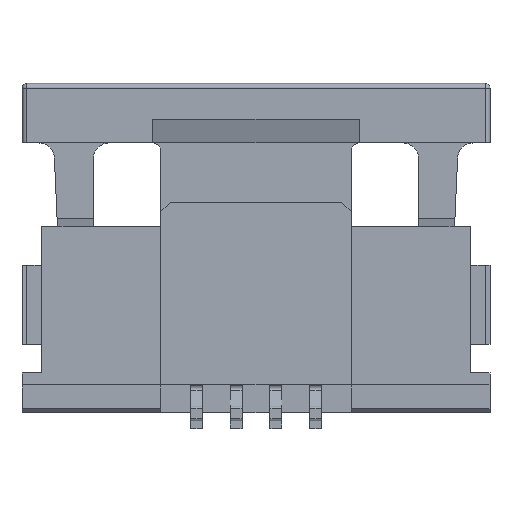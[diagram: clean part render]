
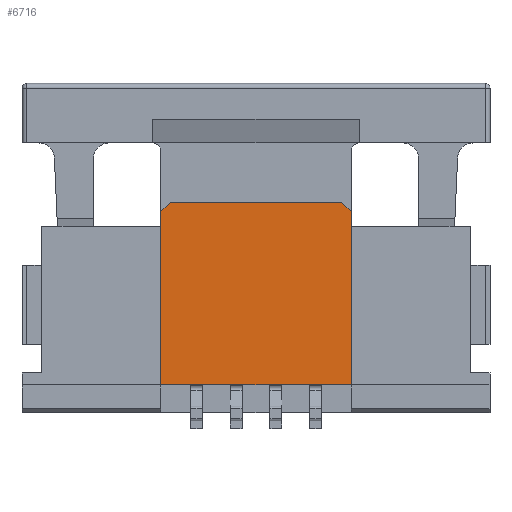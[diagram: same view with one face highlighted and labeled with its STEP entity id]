
A CAD part, front view. The second image highlights one B-rep face of the part: STEP entity #6716.
In plain terms, the highlighted planar face has unit normal (0, -1, 0).
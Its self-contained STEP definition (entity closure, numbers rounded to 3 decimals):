
#89=DIRECTION('',(1.,0.,0.));
#90=VECTOR('',#89,2.16);
#91=CARTESIAN_POINT('',(-1.08,-0.43,1.325));
#92=LINE('',#91,#90);
#229=DIRECTION('',(0.,0.,1.));
#230=VECTOR('',#229,0.18);
#231=CARTESIAN_POINT('',(1.2,-0.43,1.025));
#232=LINE('',#231,#230);
#249=DIRECTION('',(-0.707,0.,0.707));
#250=VECTOR('',#249,0.17);
#251=CARTESIAN_POINT('',(1.2,-0.43,1.205));
#252=LINE('',#251,#250);
#1149=DIRECTION('',(0.,0.,1.));
#1150=VECTOR('',#1149,2.);
#1151=CARTESIAN_POINT('',(1.2,-0.43,-0.975));
#1152=LINE('',#1151,#1150);
#1153=DIRECTION('',(0.,0.,-1.));
#1154=VECTOR('',#1153,2.);
#1155=CARTESIAN_POINT('',(-1.2,-0.43,1.025));
#1156=LINE('',#1155,#1154);
#1173=DIRECTION('',(1.,0.,0.));
#1174=VECTOR('',#1173,2.4);
#1175=CARTESIAN_POINT('',(-1.2,-0.43,-0.975));
#1176=LINE('',#1175,#1174);
#1257=DIRECTION('',(-0.707,0.,-0.707));
#1258=VECTOR('',#1257,0.17);
#1259=CARTESIAN_POINT('',(-1.08,-0.43,1.325));
#1260=LINE('',#1259,#1258);
#1281=DIRECTION('',(0.,0.,-1.));
#1282=VECTOR('',#1281,0.18);
#1283=CARTESIAN_POINT('',(-1.2,-0.43,1.205));
#1284=LINE('',#1283,#1282);
#4093=CARTESIAN_POINT('',(-1.08,-0.43,1.325));
#4094=CARTESIAN_POINT('',(1.08,-0.43,1.325));
#4095=VERTEX_POINT('',#4093);
#4096=VERTEX_POINT('',#4094);
#4105=CARTESIAN_POINT('',(-1.2,-0.43,1.205));
#4106=VERTEX_POINT('',#4105);
#4107=CARTESIAN_POINT('',(-1.2,-0.43,1.025));
#4108=VERTEX_POINT('',#4107);
#4109=CARTESIAN_POINT('',(1.2,-0.43,1.025));
#4110=VERTEX_POINT('',#4109);
#4111=CARTESIAN_POINT('',(1.2,-0.43,1.205));
#4112=VERTEX_POINT('',#4111);
#4113=CARTESIAN_POINT('',(-1.2,-0.43,-0.975));
#4114=VERTEX_POINT('',#4113);
#4115=CARTESIAN_POINT('',(1.2,-0.43,-0.975));
#4116=VERTEX_POINT('',#4115);
#6697=CARTESIAN_POINT('',(0.,-0.43,0.));
#6698=DIRECTION('',(0.,-1.,0.));
#6699=DIRECTION('',(1.,0.,0.));
#6700=AXIS2_PLACEMENT_3D('',#6697,#6698,#6699);
#6701=PLANE('',#6700);
#6702=ORIENTED_EDGE('',*,*,#5290,.T.);
#6703=ORIENTED_EDGE('',*,*,#5546,.F.);
#6704=ORIENTED_EDGE('',*,*,#5518,.F.);
#6706=ORIENTED_EDGE('',*,*,#6705,.F.);
#6708=ORIENTED_EDGE('',*,*,#6707,.F.);
#6709=ORIENTED_EDGE('',*,*,#6690,.F.);
#6711=ORIENTED_EDGE('',*,*,#6710,.F.);
#6713=ORIENTED_EDGE('',*,*,#6712,.F.);
#6714=EDGE_LOOP('',(#6702,#6703,#6704,#6706,#6708,#6709,#6711,#6713));
#6715=FACE_OUTER_BOUND('',#6714,.F.);
#6716=ADVANCED_FACE('',(#6715),#6701,.T.);
#5290=EDGE_CURVE('',#4095,#4096,#92,.T.);
#5518=EDGE_CURVE('',#4110,#4112,#232,.T.);
#5546=EDGE_CURVE('',#4112,#4096,#252,.T.);
#6690=EDGE_CURVE('',#4108,#4114,#1156,.T.);
#6705=EDGE_CURVE('',#4116,#4110,#1152,.T.);
#6707=EDGE_CURVE('',#4114,#4116,#1176,.T.);
#6710=EDGE_CURVE('',#4106,#4108,#1284,.T.);
#6712=EDGE_CURVE('',#4095,#4106,#1260,.T.);
